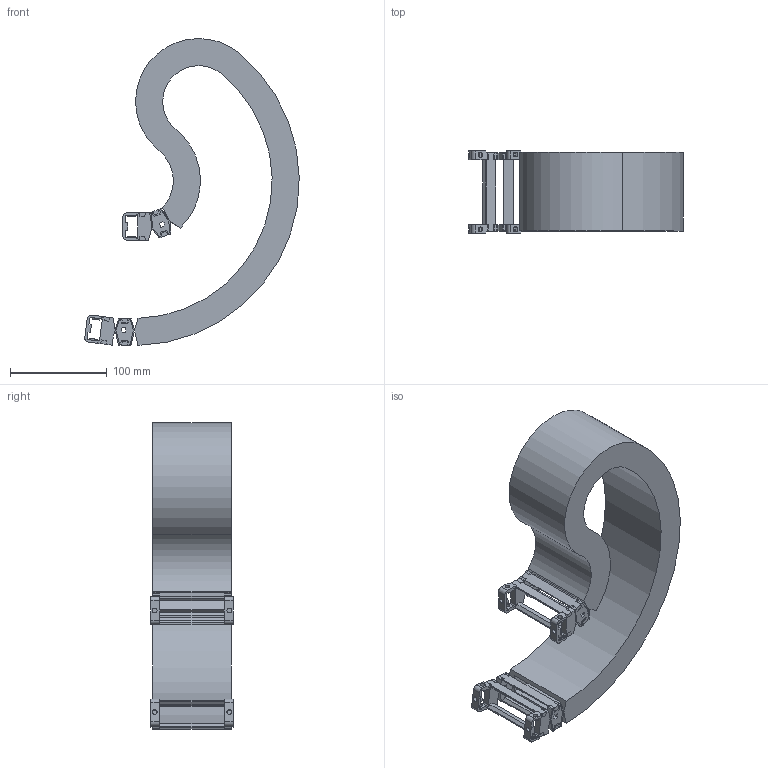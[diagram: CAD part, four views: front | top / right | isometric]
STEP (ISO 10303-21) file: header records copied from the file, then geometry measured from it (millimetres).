
FILE_DESCRIPTION( ( 'STEP AP214' ), '1' );
FILE_NAME( 'e:/temp/worker_24/temp/exporttempdir_5476_148_LcJva/format_0/RV020CRA81874030130150-0067893.2245.stp', '2021-07-23T16:18:11', ( 'License CC BY-ND 4.0' ), ( 'CADENAS' ), ' ', 'PARTsolutions', ' ' );
FILE_SCHEMA( ( 'AUTOMOTIVE_DESIGN { 1 0 10303 214 1 1 1 1 }' ) );
Length unit declared in the file: millimetre
Products named in the file (4): RV020CRA81874030130150-0067893.2245; _RV020CRA81874030130150-0067563.52-Chain; _RV020CR-20-67; _RV 020CR_FB-81
Assembly tree (5 placements, depth 2):
  RV020CRA81874030130150-0067893.2245
    _RV020CRA81874030130150-0067563.52-Chain
    _RV020CR-20-67  x2
    _RV 020CR_FB-81  x2
Bounding box: 221.3 x 85 x 316.56 mm (x, y, z)
Volume: 632249.9 mm3; surface area: 280572.2 mm2
Topology: 5 solids, 5 shells, 600 faces, 1724 edges, 1124 vertices
Faces by surface type: plane 480, cylinder 120
Full cylindrical faces by diameter (mm): 5 x12
Entity records: 12586 total; most frequent: CARTESIAN_POINT 1776, ORIENTED_EDGE 1764, DIRECTION 1656, EDGE_CURVE 882, LINE 740, VECTOR 740, VERTEX_POINT 578, AXIS2_PLACEMENT_3D 458
